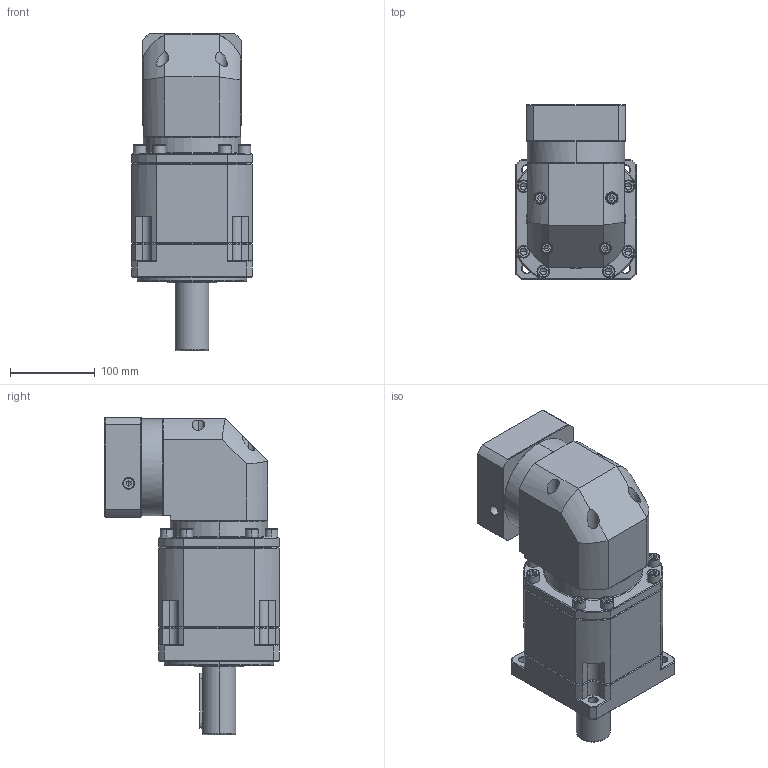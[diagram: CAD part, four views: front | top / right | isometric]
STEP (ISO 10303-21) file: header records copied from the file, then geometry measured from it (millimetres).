
FILE_DESCRIPTION (( 'STEP AP214' ), '1' );
FILE_NAME ('ZBR142A-D40-L3-P2-19-95-115-M8.step', '2023-09-02T08:10:33', ( '' ), ( '' ), 'SwSTEP 2.0', 'SolidWorks 2016', '' );
FILE_SCHEMA (( 'AUTOMOTIVE_DESIGN' ));
Length unit declared in the file: millimetre
Products named in the file (1): ZBR142A-D40-L3-P2-19-95-115-M8
Bounding box: 142 x 205.9 x 375.2 mm (x, y, z)
Volume: 5146961.4 mm3; surface area: 337009.4 mm2
Topology: 6 solids, 6 shells, 2588 faces, 6740 edges, 4278 vertices
Faces by surface type: plane 1232, cylinder 502, bspline 410, cone 398, torus 46
Entity records: 137016 total; most frequent: CARTESIAN_POINT 48525, ORIENTED_EDGE 13372, DIRECTION 10941, EDGE_CURVE 6686, VERTEX_POINT 4278, VECTOR 4273, LINE 4273, AXIS2_PLACEMENT_3D 3334
